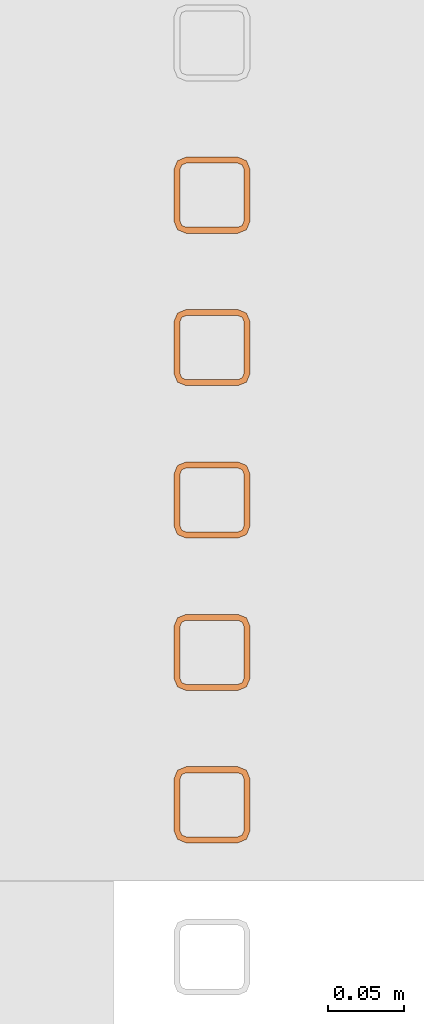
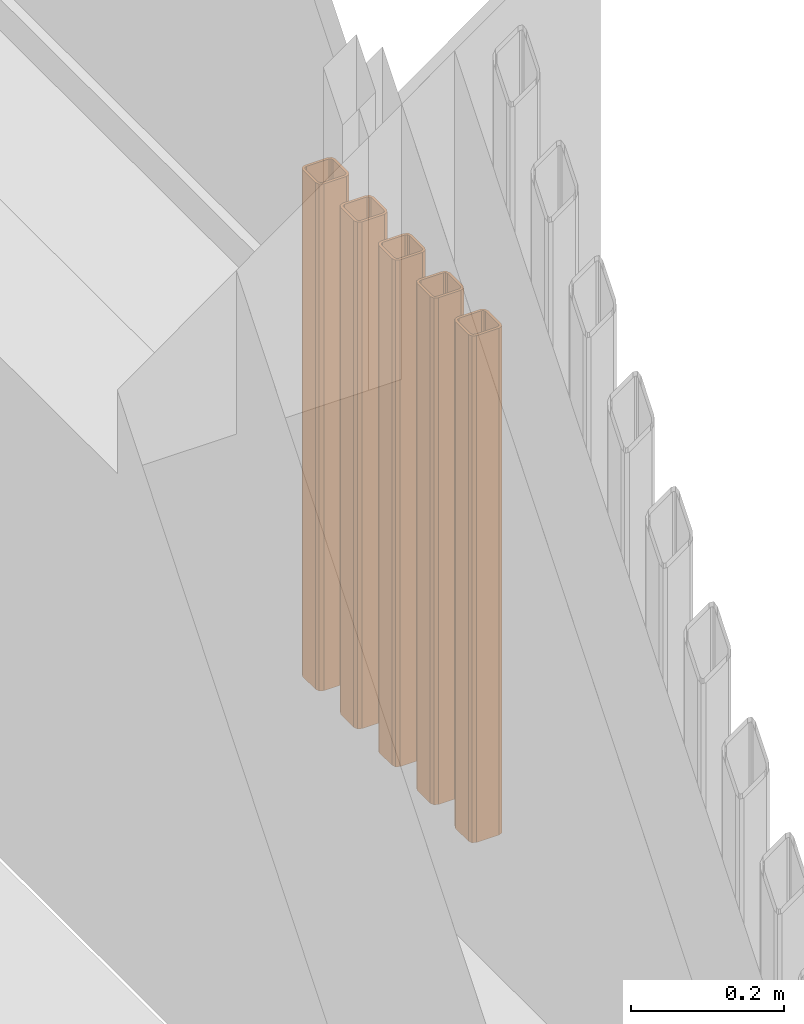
# One storey, part 99 of 112: 5 proxies.
"""IFC2X3 building model written with IfcOpenShell, lengths in millimetres."""

from ifc_helpers import new_model, entity, si_unit, converted_unit, derived_unit, money_unit, direction, frame, origin_with_axes, place, context, subcontext, project, spatial, faceted_brep, source, transform, mapped, material, type_object, element, save


model = new_model("IFC2X3")

# Units and contexts
model_context = context("Model", 3, precision=0.01, world=origin_with_axes(), true_north=direction((0.0, 1.0)))
body_context = subcontext(model_context, "Body", "Model", "MODEL_VIEW")
ifc_project = project(units=[si_unit("LENGTHUNIT", "METRE", prefix="MILLI"), si_unit("AREAUNIT", "SQUARE_METRE"), si_unit("VOLUMEUNIT", "CUBIC_METRE"), converted_unit("PLANEANGLEUNIT", "DEGREE", entity("IfcPlaneAngleMeasure", 0.0174532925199), si_unit("PLANEANGLEUNIT", "RADIAN"), dimensions=[0, 0, 0, 0, 0, 0, 0]), si_unit("SOLIDANGLEUNIT", "STERADIAN"), money_unit("EUR"), converted_unit("TIMEUNIT", "Year", entity("IfcTimeMeasure", 31556926.0), si_unit("TIMEUNIT", "SECOND"), dimensions=[0, 0, 1, 0, 0, 0, 0]), si_unit("MASSUNIT", "GRAM", prefix="KILO"), si_unit("THERMODYNAMICTEMPERATUREUNIT", "DEGREE_CELSIUS"), si_unit("LUMINOUSINTENSITYUNIT", "LUMEN"), si_unit("ENERGYUNIT", "JOULE", prefix="MEGA"), derived_unit("THERMALCONDUCTANCEUNIT", [(si_unit("POWERUNIT", "WATT"), 1), (si_unit("LENGTHUNIT", "METRE"), -1), (si_unit("THERMODYNAMICTEMPERATUREUNIT", "KELVIN"), -1)]), derived_unit("SPECIFICHEATCAPACITYUNIT", [(si_unit("ENERGYUNIT", "JOULE"), 1), (si_unit("MASSUNIT", "GRAM", prefix="KILO"), -1), (si_unit("THERMODYNAMICTEMPERATUREUNIT", "KELVIN"), -1)]), derived_unit("MASSDENSITYUNIT", [(si_unit("MASSUNIT", "GRAM", prefix="KILO"), 1), (si_unit("VOLUMEUNIT", "CUBIC_METRE"), -1)])], contexts=[model_context])

# Site, building, storey
site_placement = place(None, origin_with_axes())
site = spatial("IfcSite", under=ifc_project, at=site_placement, Name="Politse- ja Piirivalveameti ning Päästeameti ühishoone", CompositionType="ELEMENT")
building_placement = place(site_placement, origin_with_axes())
building = spatial("IfcBuilding", under=site, at=building_placement, Name="Politse- ja Piirivalveameti ning Päästeameti ühishoone", CompositionType="ELEMENT")
storey_placement = place(building_placement, origin_with_axes())
storey = spatial("IfcBuildingStorey", under=building, at=storey_placement, Name="Esimene korrus", CompositionType="ELEMENT", Elevation=0.0)

# Proxies
ifc_material = material(Name="ET-05_Teras")
building_element_proxy_type = type_object("IfcBuildingElementProxyType", Name="SHS Cold-Formed Column 23", PredefinedType="NOTDEFINED")
shared_shape = source(origin_with_axes(), body_context, "Body", "Brep", [
    faceted_brep([(-17.0, -25.0, 0.0), (17.0, -25.0, 0.0), (17.0, -25.0, 810.0), (-17.0, -25.0, 810.0), (-22.6568542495, -22.6568542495, 0.0), (-25.0, -17.0, 0.0), (-25.0, 17.0, 0.0), (-22.6568542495, 22.6568542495, 0.0), (-17.0, 25.0, 0.0), (17.0, 25.0, 0.0), (22.6568542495, 22.6568542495, 0.0), (25.0, 17.0, 0.0), (25.0, -17.0, 0.0), (22.6568542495, -22.6568542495, 0.0), (-17.0, -21.0, 0.0), (17.0, -21.0, 0.0), (19.8284271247, -19.8284271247, 0.0), (21.0, -17.0, 0.0), (21.0, 17.0, 0.0), (19.8284271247, 19.8284271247, 0.0), (17.0, 21.0, 0.0), (-17.0, 21.0, 0.0), (-19.8284271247, 19.8284271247, 0.0), (-21.0, 17.0, 0.0), (-21.0, -17.0, 0.0), (-19.8284271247, -19.8284271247, 0.0), (22.6568542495, -22.6568542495, 810.0), (25.0, -17.0, 810.0), (25.0, 17.0, 810.0), (22.6568542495, 22.6568542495, 810.0), (17.0, 25.0, 810.0), (-17.0, 25.0, 810.0), (-22.6568542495, 22.6568542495, 810.0), (-25.0, 17.0, 810.0), (-25.0, -17.0, 810.0), (-22.6568542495, -22.6568542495, 810.0), (-17.0, -21.0, 810.0), (-19.8284271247, -19.8284271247, 810.0), (-21.0, -17.0, 810.0), (-21.0, 17.0, 810.0), (-19.8284271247, 19.8284271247, 810.0), (-17.0, 21.0, 810.0), (17.0, 21.0, 810.0), (19.8284271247, 19.8284271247, 810.0), (21.0, 17.0, 810.0), (21.0, -17.0, 810.0), (19.8284271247, -19.8284271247, 810.0), (17.0, -21.0, 810.0)], [[[0, 1, 2, 3]], [[0, 4, 5, 6, 7, 8, 9, 10, 11, 12, 13, 1], [14, 15, 16, 17, 18, 19, 20, 21, 22, 23, 24, 25]], [[1, 13, 26, 2]], [[3, 2, 26, 27, 28, 29, 30, 31, 32, 33, 34, 35], [36, 37, 38, 39, 40, 41, 42, 43, 44, 45, 46, 47]], [[4, 0, 3, 35]], [[5, 4, 35, 34]], [[6, 5, 34, 33]], [[7, 6, 33, 32]], [[8, 7, 32, 31]], [[9, 8, 31, 30]], [[10, 9, 30, 29]], [[11, 10, 29, 28]], [[12, 11, 28, 27]], [[13, 12, 27, 26]], [[15, 14, 36, 47]], [[16, 15, 47, 46]], [[17, 16, 46, 45]], [[18, 17, 45, 44]], [[19, 18, 44, 43]], [[20, 19, 43, 42]], [[21, 20, 42, 41]], [[22, 21, 41, 40]], [[23, 22, 40, 39]], [[24, 23, 39, 38]], [[25, 24, 38, 37]], [[14, 25, 37, 36]]]),
])
for number, where, z_axis, x_axis in (
    (1, (70235.2095212, 28350.0702441, 0.0), (0.0, 0.0, 1.0), (1.0, 0.0, 0.0)),
    (2, (70235.2095212, 28450.0702441, 0.0), (0.0, 0.0, 1.0), (1.0, 0.0, 0.0)),
    (3, (70235.2095212, 28550.0702441, 0.0), (0.0, 0.0, 1.0), (1.0, 0.0, 0.0)),
    (4, (70235.2095212, 28650.0702441, 0.0), (0.0, 0.0, 1.0), (1.0, 0.0, 0.0)),
    (5, (70235.2095212, 28750.0702441, 0.0), (0.0, 0.0, 1.0), (1.0, 0.0, 0.0)),
):
    element("IfcBuildingElementProxy", number, at=place(storey_placement, frame(where, z_axis=z_axis, x_axis=x_axis)), inside=storey, type_object=building_element_proxy_type, material=ifc_material, Name="Fassaadiribid", context=body_context, shape_type="MappedRepresentation", body=[
        mapped(shared_shape, transform((0.0, 0.0, 0.0))),
    ])

save(model, "model.ifc")
